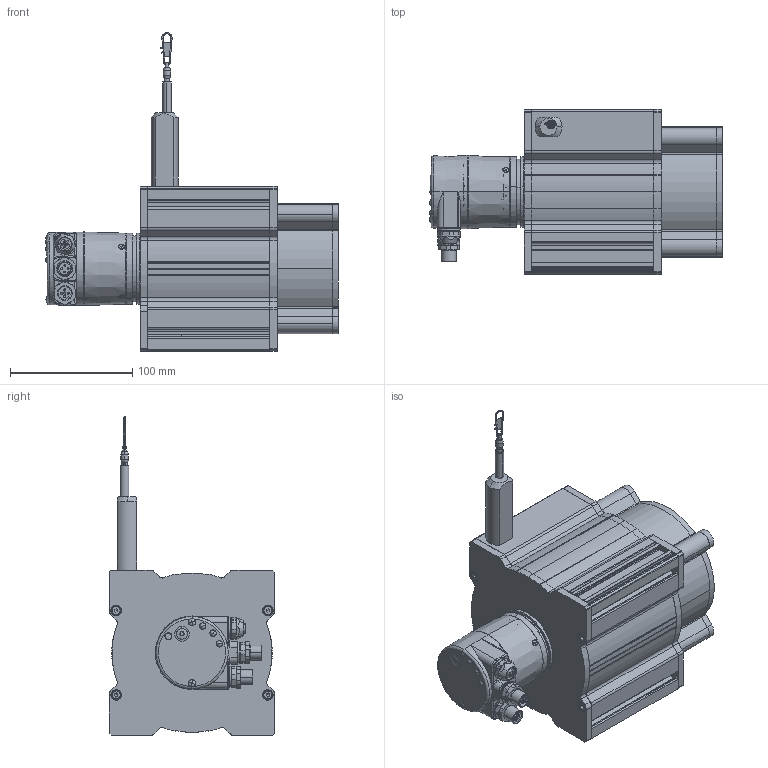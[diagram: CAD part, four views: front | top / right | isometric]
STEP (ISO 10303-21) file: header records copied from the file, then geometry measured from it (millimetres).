
FILE_DESCRIPTION (( 'STEP AP214' ), '1' );
FILE_NAME ('D8.4D1.2000.6832.3113.STEP', '2009-05-12T09:51:41', ( 'admin' ), ( 'Fritz Kübler GmbH' ), 'SwSTEP 2.0', 'SolidWorks 2009', '' );
FILE_SCHEMA (( 'AUTOMOTIVE_DESIGN' ));
Length unit declared in the file: millimetre
Products named in the file (1): D8.4D1.2000.6832.3113
Bounding box: 239.15 x 135 x 260.32 mm (x, y, z)
Volume: 635479.6 mm3; surface area: 355250.5 mm2
Topology: 38 solids, 39 shells, 2319 faces, 5963 edges, 3773 vertices
Faces by surface type: cylinder 1023, plane 737, cone 309, torus 169, bspline 50, sphere 31
Entity records: 101091 total; most frequent: CARTESIAN_POINT 17730, DIRECTION 12719, ORIENTED_EDGE 11746, EDGE_CURVE 5873, AXIS2_PLACEMENT_3D 5021, VERTEX_POINT 3760, CIRCLE 2751, VECTOR 2677
